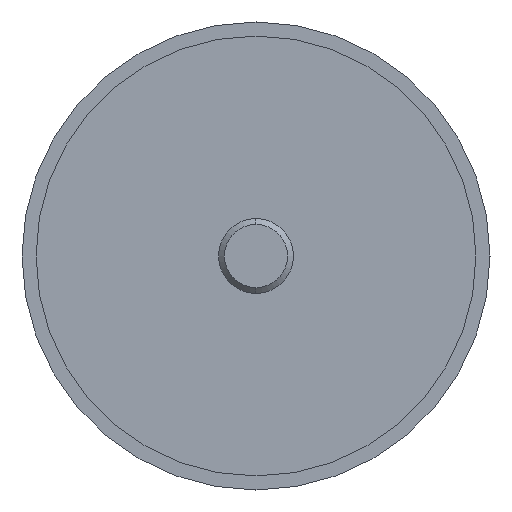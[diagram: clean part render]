
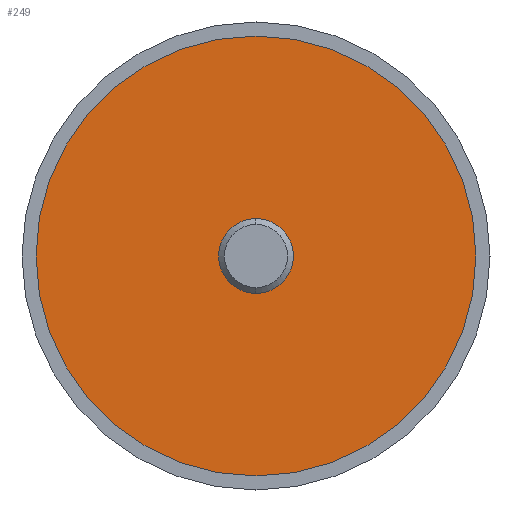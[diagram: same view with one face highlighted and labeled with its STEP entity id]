
A CAD part, left-side view. The second image highlights one B-rep face of the part: STEP entity #249.
In plain terms, the highlighted planar face has unit normal (-1, 0, 0).
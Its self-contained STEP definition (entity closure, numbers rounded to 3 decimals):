
#7 = CARTESIAN_POINT ( 'NONE',  ( -27.49, 0., 0. ) ) ;
#17 = VERTEX_POINT ( 'NONE', #548 ) ;
#20 = FACE_BOUND ( 'NONE', #561, .T. ) ;
#41 = CIRCLE ( 'NONE', #127, 47. ) ;
#44 = CARTESIAN_POINT ( 'NONE',  ( -27.49, 0., 0. ) ) ;
#74 = EDGE_LOOP ( 'NONE', ( #459, #473 ) ) ;
#78 = VERTEX_POINT ( 'NONE', #447 ) ;
#89 = FACE_OUTER_BOUND ( 'NONE', #74, .T. ) ;
#106 = EDGE_CURVE ( 'NONE', #17, #221, #334, .T. ) ;
#113 = DIRECTION ( 'NONE',  ( 0., 0., 1. ) ) ;
#127 = AXIS2_PLACEMENT_3D ( 'NONE', #7, #312, #113 ) ;
#145 = EDGE_CURVE ( 'NONE', #221, #17, #223, .T. ) ;
#199 = ORIENTED_EDGE ( 'NONE', *, *, #145, .F. ) ;
#207 = CARTESIAN_POINT ( 'NONE',  ( -27.49, 0., 0. ) ) ;
#221 = VERTEX_POINT ( 'NONE', #352 ) ;
#223 = CIRCLE ( 'NONE', #671, 8. ) ;
#240 = CARTESIAN_POINT ( 'NONE',  ( -27.49, 47., 0. ) ) ;
#247 = DIRECTION ( 'NONE',  ( -1., 0., 0. ) ) ;
#249 = ADVANCED_FACE ( 'NONE', ( #89, #20 ), #527, .F. ) ;
#288 = DIRECTION ( 'NONE',  ( 0., 0., -1. ) ) ;
#308 = AXIS2_PLACEMENT_3D ( 'NONE', #624, #411, #512 ) ;
#312 = DIRECTION ( 'NONE',  ( -1., 0., 0. ) ) ;
#334 = CIRCLE ( 'NONE', #591, 8. ) ;
#352 = CARTESIAN_POINT ( 'NONE',  ( -27.49, 0., 8. ) ) ;
#400 = ORIENTED_EDGE ( 'NONE', *, *, #106, .F. ) ;
#402 = AXIS2_PLACEMENT_3D ( 'NONE', #240, #539, #288 ) ;
#411 = DIRECTION ( 'NONE',  ( -1., 0., 0. ) ) ;
#432 = VERTEX_POINT ( 'NONE', #612 ) ;
#447 = CARTESIAN_POINT ( 'NONE',  ( -27.49, 0., 47. ) ) ;
#452 = DIRECTION ( 'NONE',  ( 0., 0., -1. ) ) ;
#459 = ORIENTED_EDGE ( 'NONE', *, *, #547, .T. ) ;
#473 = ORIENTED_EDGE ( 'NONE', *, *, #559, .T. ) ;
#512 = DIRECTION ( 'NONE',  ( 0., 0., 1. ) ) ;
#527 = PLANE ( 'NONE',  #402 ) ;
#539 = DIRECTION ( 'NONE',  ( 1., 0., 0. ) ) ;
#547 = EDGE_CURVE ( 'NONE', #78, #432, #606, .T. ) ;
#548 = CARTESIAN_POINT ( 'NONE',  ( -27.49, 0., -8. ) ) ;
#559 = EDGE_CURVE ( 'NONE', #432, #78, #41, .T. ) ;
#561 = EDGE_LOOP ( 'NONE', ( #199, #400 ) ) ;
#563 = DIRECTION ( 'NONE',  ( -1., 0., 0. ) ) ;
#591 = AXIS2_PLACEMENT_3D ( 'NONE', #207, #563, #622 ) ;
#606 = CIRCLE ( 'NONE', #308, 47. ) ;
#612 = CARTESIAN_POINT ( 'NONE',  ( -27.49, 0., -47. ) ) ;
#622 = DIRECTION ( 'NONE',  ( 0., 0., -1. ) ) ;
#624 = CARTESIAN_POINT ( 'NONE',  ( -27.49, 0., 0. ) ) ;
#671 = AXIS2_PLACEMENT_3D ( 'NONE', #44, #247, #452 ) ;
